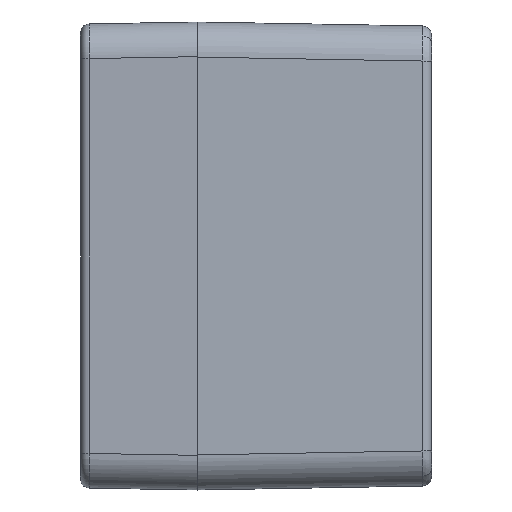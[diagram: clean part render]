
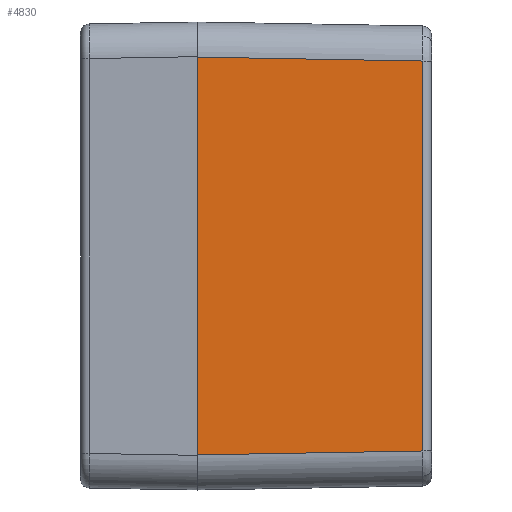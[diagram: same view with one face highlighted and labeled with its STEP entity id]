
A CAD part, left-side view. The second image highlights one B-rep face of the part: STEP entity #4830.
In plain terms, the highlighted planar face has unit normal (-1, -0.018, 0) as drawn and (0, -1, -0.017) by its records, which use the part's own axes.
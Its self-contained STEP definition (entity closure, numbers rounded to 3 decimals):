
#467 = EDGE_CURVE ( 'NONE', #13457, #9145, #11659, .T. ) ;
#1301 = CARTESIAN_POINT ( 'NONE',  ( -40., -100., 0. ) ) ;
#1664 = EDGE_LOOP ( 'NONE', ( #16339, #8499, #5488, #6881 ) ) ;
#1869 = CARTESIAN_POINT ( 'NONE',  ( -33.328, -99.328, -38.526 ) ) ;
#2499 = VECTOR ( 'NONE', #4249, 1000. ) ;
#2675 = CARTESIAN_POINT ( 'NONE',  ( -34.003, -100.002, 0.105 ) ) ;
#2853 = CARTESIAN_POINT ( 'NONE',  ( 33.978, -99.977, -1.291 ) ) ;
#3163 = VECTOR ( 'NONE', #17136, 1000. ) ;
#4249 = DIRECTION ( 'NONE',  ( 0.017, 0.017, -1. ) ) ;
#4328 = LINE ( 'NONE', #2675, #2499 ) ;
#4830 = ADVANCED_FACE ( 'NONE', ( #17002 ), #14310, .T. ) ;
#5109 = DIRECTION ( 'NONE',  ( 1., 0., 0. ) ) ;
#5259 = VECTOR ( 'NONE', #5109, 1000. ) ;
#5488 = ORIENTED_EDGE ( 'NONE', *, *, #5674, .T. ) ;
#5674 = EDGE_CURVE ( 'NONE', #11154, #13457, #11979, .T. ) ;
#6409 = CARTESIAN_POINT ( 'NONE',  ( -40., -100., 0. ) ) ;
#6494 = DIRECTION ( 'NONE',  ( -1., 0., 0. ) ) ;
#6881 = ORIENTED_EDGE ( 'NONE', *, *, #467, .T. ) ;
#8021 = CARTESIAN_POINT ( 'NONE',  ( 33.328, -99.328, -38.526 ) ) ;
#8499 = ORIENTED_EDGE ( 'NONE', *, *, #13241, .T. ) ;
#9145 = VERTEX_POINT ( 'NONE', #13399 ) ;
#9982 = VECTOR ( 'NONE', #13295, 1000. ) ;
#10655 = DIRECTION ( 'NONE',  ( 0., -1., -0.017 ) ) ;
#11154 = VERTEX_POINT ( 'NONE', #8021 ) ;
#11595 = EDGE_CURVE ( 'NONE', #9145, #14703, #4328, .T. ) ;
#11659 = LINE ( 'NONE', #1301, #3163 ) ;
#11713 = LINE ( 'NONE', #17018, #5259 ) ;
#11917 = AXIS2_PLACEMENT_3D ( 'NONE', #6409, #10655, #6494 ) ;
#11979 = LINE ( 'NONE', #2853, #9982 ) ;
#12480 = CARTESIAN_POINT ( 'NONE',  ( 34.001, -100., 0. ) ) ;
#13241 = EDGE_CURVE ( 'NONE', #14703, #11154, #11713, .T. ) ;
#13295 = DIRECTION ( 'NONE',  ( 0.017, -0.017, 1. ) ) ;
#13399 = CARTESIAN_POINT ( 'NONE',  ( -34.001, -100., 0. ) ) ;
#13457 = VERTEX_POINT ( 'NONE', #12480 ) ;
#14310 = PLANE ( 'NONE',  #11917 ) ;
#14703 = VERTEX_POINT ( 'NONE', #1869 ) ;
#16339 = ORIENTED_EDGE ( 'NONE', *, *, #11595, .T. ) ;
#17002 = FACE_OUTER_BOUND ( 'NONE', #1664, .T. ) ;
#17018 = CARTESIAN_POINT ( 'NONE',  ( 33.303, -99.328, -38.526 ) ) ;
#17136 = DIRECTION ( 'NONE',  ( -1., 0., 0. ) ) ;
